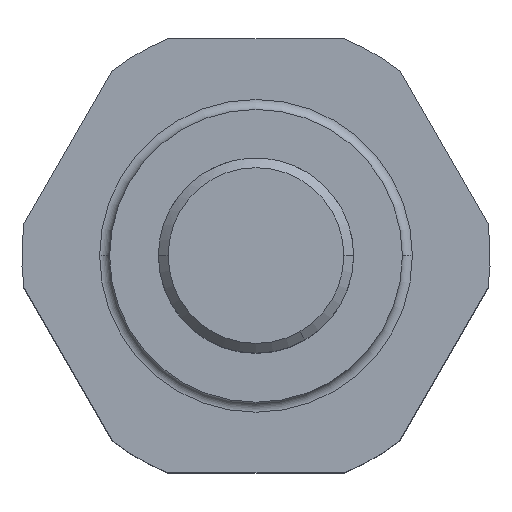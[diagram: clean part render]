
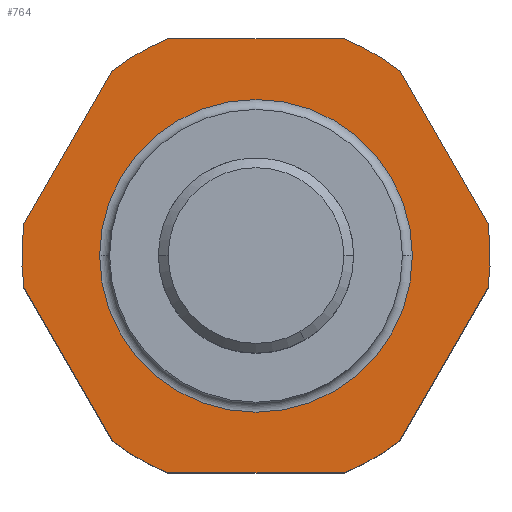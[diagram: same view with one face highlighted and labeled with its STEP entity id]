
A CAD part, top view. The second image highlights one B-rep face of the part: STEP entity #764.
In plain terms, the highlighted planar face has unit normal (0, 0, 1).
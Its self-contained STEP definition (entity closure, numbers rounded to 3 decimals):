
#429=CARTESIAN_POINT('Line Origine',(2.265,11.113,8.49)) ;
#433=CARTESIAN_POINT('Vertex',(4.529,11.113,8.49)) ;
#435=CARTESIAN_POINT('Vertex',(0.,11.113,8.49)) ;
#464=CARTESIAN_POINT('Vertex',(7.359,9.479,8.49)) ;
#467=CARTESIAN_POINT('Axis2P3D Location',(0.,0.,8.49)) ;
#484=CARTESIAN_POINT('Line Origine',(9.624,5.556,8.49)) ;
#488=CARTESIAN_POINT('Vertex',(11.888,1.634,8.49)) ;
#507=CARTESIAN_POINT('Vertex',(11.888,-1.634,8.49)) ;
#510=CARTESIAN_POINT('Axis2P3D Location',(0.,0.,8.49)) ;
#527=CARTESIAN_POINT('Line Origine',(9.624,-5.556,8.49)) ;
#531=CARTESIAN_POINT('Vertex',(7.359,-9.479,8.49)) ;
#550=CARTESIAN_POINT('Vertex',(4.529,-11.112,8.49)) ;
#553=CARTESIAN_POINT('Axis2P3D Location',(0.,0.,8.49)) ;
#570=CARTESIAN_POINT('Line Origine',(2.265,-11.113,8.49)) ;
#574=CARTESIAN_POINT('Vertex',(0.,-11.113,8.49)) ;
#589=CARTESIAN_POINT('Line Origine',(-2.265,-11.113,8.49)) ;
#593=CARTESIAN_POINT('Vertex',(-4.529,-11.113,8.49)) ;
#612=CARTESIAN_POINT('Vertex',(-7.359,-9.479,8.49)) ;
#615=CARTESIAN_POINT('Axis2P3D Location',(0.,0.,8.49)) ;
#636=CARTESIAN_POINT('Vertex',(-11.888,-1.634,8.49)) ;
#639=CARTESIAN_POINT('Line Origine',(-9.624,-5.556,8.49)) ;
#655=CARTESIAN_POINT('Vertex',(-11.888,1.634,8.49)) ;
#658=CARTESIAN_POINT('Axis2P3D Location',(0.,0.,8.49)) ;
#679=CARTESIAN_POINT('Vertex',(-7.359,9.479,8.49)) ;
#682=CARTESIAN_POINT('Line Origine',(-9.624,5.556,8.49)) ;
#698=CARTESIAN_POINT('Vertex',(-4.529,11.113,8.49)) ;
#701=CARTESIAN_POINT('Axis2P3D Location',(0.,0.,8.49)) ;
#713=CARTESIAN_POINT('Line Origine',(-2.265,11.113,8.49)) ;
#725=CARTESIAN_POINT('Axis2P3D Location',(0.,0.,8.49)) ;
#746=CARTESIAN_POINT('Axis2P3D Location',(0.,0.,8.49)) ;
#750=CARTESIAN_POINT('Vertex',(8.01,0.,8.49)) ;
#752=CARTESIAN_POINT('Vertex',(-8.01,0.,8.49)) ;
#755=CARTESIAN_POINT('Axis2P3D Location',(0.,0.,8.49)) ;
#431=VECTOR('Line Direction',#430,1.) ;
#486=VECTOR('Line Direction',#485,1.) ;
#529=VECTOR('Line Direction',#528,1.) ;
#572=VECTOR('Line Direction',#571,1.) ;
#591=VECTOR('Line Direction',#590,1.) ;
#641=VECTOR('Line Direction',#640,1.) ;
#684=VECTOR('Line Direction',#683,1.) ;
#715=VECTOR('Line Direction',#714,1.) ;
#430=DIRECTION('Vector Direction',(-1.,0.,0.)) ;
#468=DIRECTION('Axis2P3D Direction',(0.,0.,1.)) ;
#485=DIRECTION('Vector Direction',(-0.5,0.866,0.)) ;
#511=DIRECTION('Axis2P3D Direction',(0.,0.,1.)) ;
#528=DIRECTION('Vector Direction',(0.5,0.866,0.)) ;
#554=DIRECTION('Axis2P3D Direction',(0.,0.,1.)) ;
#571=DIRECTION('Vector Direction',(1.,0.,0.)) ;
#590=DIRECTION('Vector Direction',(1.,0.,0.)) ;
#616=DIRECTION('Axis2P3D Direction',(0.,0.,1.)) ;
#640=DIRECTION('Vector Direction',(-0.5,0.866,0.)) ;
#659=DIRECTION('Axis2P3D Direction',(0.,0.,1.)) ;
#683=DIRECTION('Vector Direction',(0.5,0.866,0.)) ;
#702=DIRECTION('Axis2P3D Direction',(0.,0.,1.)) ;
#714=DIRECTION('Vector Direction',(-1.,0.,0.)) ;
#726=DIRECTION('Axis2P3D Direction',(0.,0.,1.)) ;
#727=DIRECTION('Axis2P3D XDirection',(1.,0.,0.)) ;
#747=DIRECTION('Axis2P3D Direction',(0.,0.,1.)) ;
#756=DIRECTION('Axis2P3D Direction',(0.,0.,1.)) ;
#469=AXIS2_PLACEMENT_3D('Circle Axis2P3D',#467,#468,$) ;
#512=AXIS2_PLACEMENT_3D('Circle Axis2P3D',#510,#511,$) ;
#555=AXIS2_PLACEMENT_3D('Circle Axis2P3D',#553,#554,$) ;
#617=AXIS2_PLACEMENT_3D('Circle Axis2P3D',#615,#616,$) ;
#660=AXIS2_PLACEMENT_3D('Circle Axis2P3D',#658,#659,$) ;
#703=AXIS2_PLACEMENT_3D('Circle Axis2P3D',#701,#702,$) ;
#728=AXIS2_PLACEMENT_3D('Plane Axis2P3D',#725,#726,#727) ;
#748=AXIS2_PLACEMENT_3D('Circle Axis2P3D',#746,#747,$) ;
#757=AXIS2_PLACEMENT_3D('Circle Axis2P3D',#755,#756,$) ;
#432=LINE('Line',#429,#431) ;
#487=LINE('Line',#484,#486) ;
#530=LINE('Line',#527,#529) ;
#573=LINE('Line',#570,#572) ;
#592=LINE('Line',#589,#591) ;
#642=LINE('Line',#639,#641) ;
#685=LINE('Line',#682,#684) ;
#716=LINE('Line',#713,#715) ;
#470=CIRCLE('generated circle',#469,12.) ;
#513=CIRCLE('generated circle',#512,12.) ;
#556=CIRCLE('generated circle',#555,12.) ;
#618=CIRCLE('generated circle',#617,12.) ;
#661=CIRCLE('generated circle',#660,12.) ;
#704=CIRCLE('generated circle',#703,12.) ;
#749=CIRCLE('generated circle',#748,8.01) ;
#758=CIRCLE('generated circle',#757,8.01) ;
#729=PLANE('',#728) ;
#763=FACE_BOUND('',#760,.T.) ;
#437=EDGE_CURVE('',#434,#436,#432,.T.) ;
#471=EDGE_CURVE('',#465,#434,#470,.T.) ;
#490=EDGE_CURVE('',#489,#465,#487,.T.) ;
#514=EDGE_CURVE('',#508,#489,#513,.T.) ;
#533=EDGE_CURVE('',#532,#508,#530,.T.) ;
#557=EDGE_CURVE('',#551,#532,#556,.T.) ;
#576=EDGE_CURVE('',#575,#551,#573,.T.) ;
#595=EDGE_CURVE('',#594,#575,#592,.T.) ;
#619=EDGE_CURVE('',#613,#594,#618,.T.) ;
#643=EDGE_CURVE('',#613,#637,#642,.T.) ;
#662=EDGE_CURVE('',#656,#637,#661,.T.) ;
#686=EDGE_CURVE('',#656,#680,#685,.T.) ;
#705=EDGE_CURVE('',#699,#680,#704,.T.) ;
#717=EDGE_CURVE('',#436,#699,#716,.T.) ;
#754=EDGE_CURVE('',#751,#753,#749,.F.) ;
#759=EDGE_CURVE('',#753,#751,#758,.F.) ;
#731=ORIENTED_EDGE('',*,*,#705,.T.) ;
#732=ORIENTED_EDGE('',*,*,#686,.F.) ;
#733=ORIENTED_EDGE('',*,*,#662,.T.) ;
#734=ORIENTED_EDGE('',*,*,#643,.F.) ;
#735=ORIENTED_EDGE('',*,*,#619,.T.) ;
#736=ORIENTED_EDGE('',*,*,#595,.T.) ;
#737=ORIENTED_EDGE('',*,*,#576,.T.) ;
#738=ORIENTED_EDGE('',*,*,#557,.T.) ;
#739=ORIENTED_EDGE('',*,*,#533,.T.) ;
#740=ORIENTED_EDGE('',*,*,#514,.T.) ;
#741=ORIENTED_EDGE('',*,*,#490,.T.) ;
#742=ORIENTED_EDGE('',*,*,#471,.T.) ;
#743=ORIENTED_EDGE('',*,*,#437,.T.) ;
#744=ORIENTED_EDGE('',*,*,#717,.T.) ;
#761=ORIENTED_EDGE('',*,*,#754,.T.) ;
#762=ORIENTED_EDGE('',*,*,#759,.T.) ;
#730=EDGE_LOOP('',(#731,#732,#733,#734,#735,#736,#737,#738,#739,#740,#741,#742,#743,#744)) ;
#760=EDGE_LOOP('',(#761,#762)) ;
#434=VERTEX_POINT('',#433) ;
#436=VERTEX_POINT('',#435) ;
#465=VERTEX_POINT('',#464) ;
#489=VERTEX_POINT('',#488) ;
#508=VERTEX_POINT('',#507) ;
#532=VERTEX_POINT('',#531) ;
#551=VERTEX_POINT('',#550) ;
#575=VERTEX_POINT('',#574) ;
#594=VERTEX_POINT('',#593) ;
#613=VERTEX_POINT('',#612) ;
#637=VERTEX_POINT('',#636) ;
#656=VERTEX_POINT('',#655) ;
#680=VERTEX_POINT('',#679) ;
#699=VERTEX_POINT('',#698) ;
#751=VERTEX_POINT('',#750) ;
#753=VERTEX_POINT('',#752) ;
#764=ADVANCED_FACE('KA_sensors_ALS',(#745,#763),#729,.T.) ;
#745=FACE_OUTER_BOUND('',#730,.T.) ;
